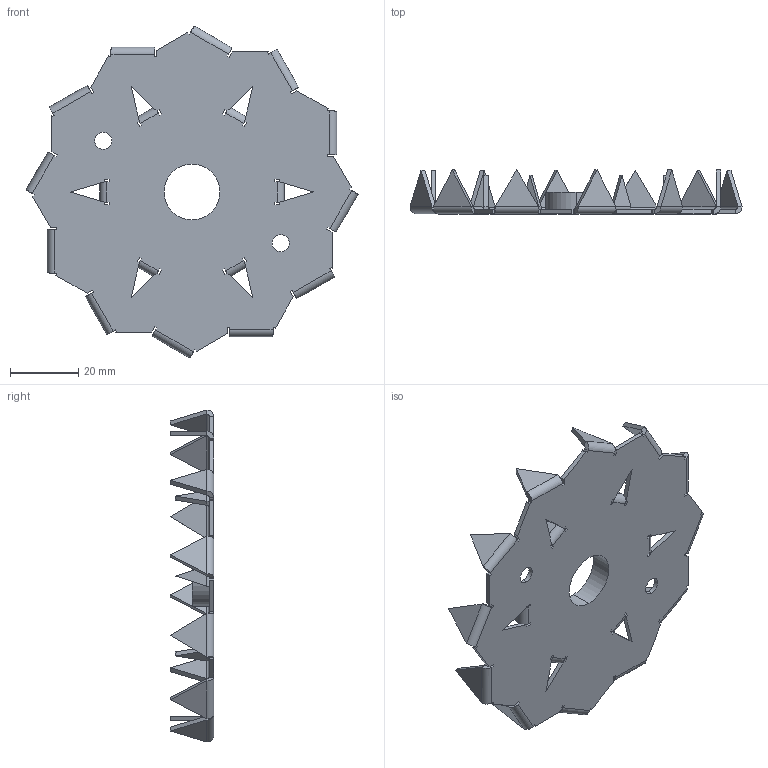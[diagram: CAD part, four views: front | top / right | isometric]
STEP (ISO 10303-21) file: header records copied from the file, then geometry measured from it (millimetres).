
FILE_DESCRIPTION (( 'STEP AP203' ), '1' );
FILE_NAME ('E95.STEP', '2020-05-22T11:20:30', ( '' ), ( '' ), 'SwSTEP 2.0', 'SolidWorks 2013', '' );
FILE_SCHEMA (( 'CONFIG_CONTROL_DESIGN' ));
Length unit declared in the file: millimetre
Products named in the file (1): E95
Bounding box: 97.33 x 12.85 x 97.33 mm (x, y, z)
Volume: 9736.8 mm3; surface area: 15948.7 mm2
Topology: 1 solids, 1 shells, 299 faces, 744 edges, 448 vertices
Faces by surface type: plane 255, cylinder 44
Entity records: 8707 total; most frequent: CARTESIAN_POINT 1492, ORIENTED_EDGE 1488, DIRECTION 1432, EDGE_CURVE 744, LINE 656, VECTOR 656, VERTEX_POINT 448, AXIS2_PLACEMENT_3D 388
